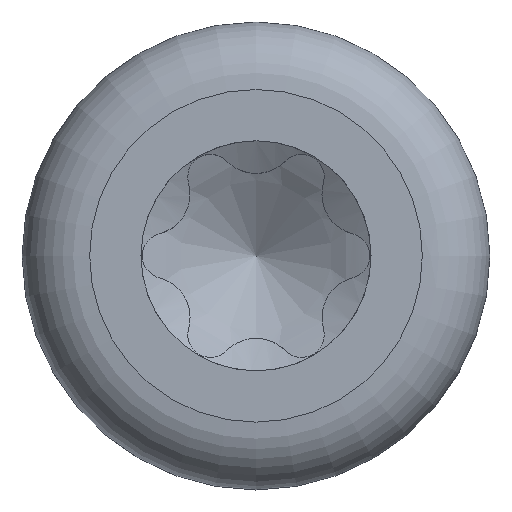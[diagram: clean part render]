
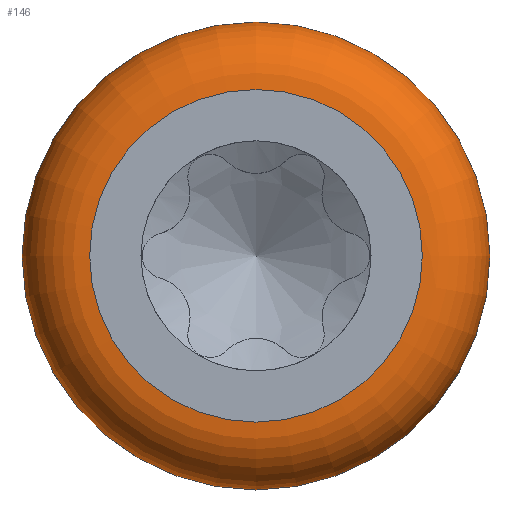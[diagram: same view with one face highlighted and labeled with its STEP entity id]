
A CAD part, top view. The second image highlights one B-rep face of the part: STEP entity #146.
In plain terms, the highlighted toroidal (fillet/blend) face has major radius 1.28 mm and minor radius 0.52 mm.
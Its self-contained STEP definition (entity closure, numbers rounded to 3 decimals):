
#109=TOROIDAL_SURFACE('',#746,1.28,0.52);
#120=FACE_BOUND('',#245,.T.);
#121=FACE_BOUND('',#246,.T.);
#146=ADVANCED_FACE('',(#120,#121),#109,.T.);
#245=EDGE_LOOP('',(#340));
#246=EDGE_LOOP('',(#341));
#298=CIRCLE('',#743,1.8);
#299=CIRCLE('',#745,1.28);
#340=ORIENTED_EDGE('',*,*,#600,.F.);
#341=ORIENTED_EDGE('',*,*,#599,.T.);
#528=VERTEX_POINT('',#1513);
#529=VERTEX_POINT('',#1516);
#599=EDGE_CURVE('',#528,#528,#298,.T.);
#600=EDGE_CURVE('',#529,#529,#299,.T.);
#743=AXIS2_PLACEMENT_3D('',#1512,#804,#805);
#745=AXIS2_PLACEMENT_3D('',#1515,#808,#809);
#746=AXIS2_PLACEMENT_3D('',#1517,#810,#811);
#804=DIRECTION('',(0.,0.,1.));
#805=DIRECTION('',(1.,0.,0.));
#808=DIRECTION('',(0.,0.,1.));
#809=DIRECTION('',(1.,0.,0.));
#810=DIRECTION('',(0.,0.,1.));
#811=DIRECTION('',(1.,0.,0.));
#1512=CARTESIAN_POINT('',(0.,0.,0.78));
#1513=CARTESIAN_POINT('',(1.8,0.,0.78));
#1515=CARTESIAN_POINT('',(0.,0.,1.3));
#1516=CARTESIAN_POINT('',(1.28,0.,1.3));
#1517=CARTESIAN_POINT('',(0.,0.,0.78));
